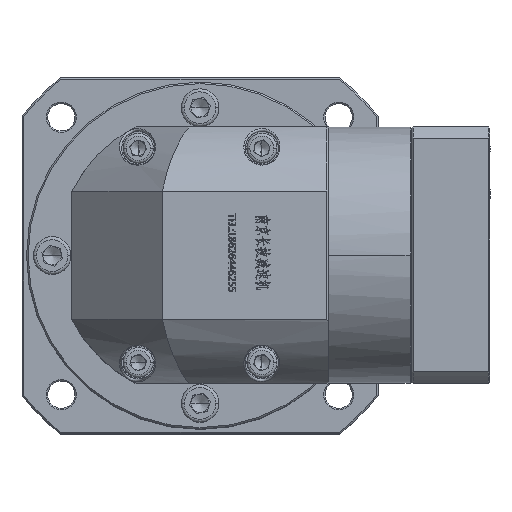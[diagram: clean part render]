
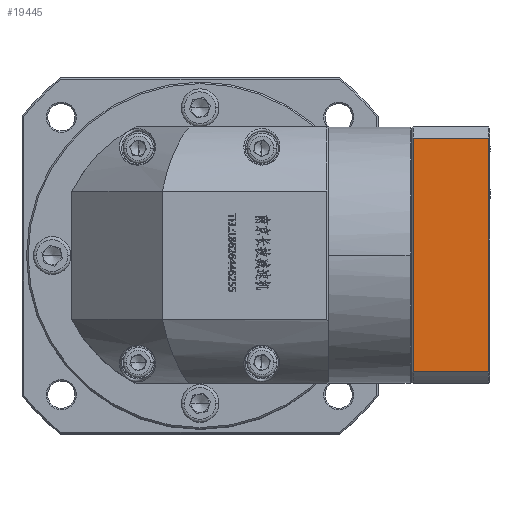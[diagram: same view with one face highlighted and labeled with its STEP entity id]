
A CAD part, top view. The second image highlights one B-rep face of the part: STEP entity #19445.
In plain terms, the highlighted planar face has unit normal (0, 0, 1).
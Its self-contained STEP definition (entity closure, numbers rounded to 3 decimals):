
#9739 = VERTEX_POINT ( 'NONE', #90985 ) ;
#14652 = ORIENTED_EDGE ( 'NONE', *, *, #107150, .F. ) ;
#17073 = CARTESIAN_POINT ( 'NONE',  ( 116.284, 87.155, 6.465 ) ) ;
#19094 = DIRECTION ( 'NONE',  ( -1., 0., 0. ) ) ;
#19445 = ADVANCED_FACE ( 'NONE', ( #86221 ), #45026, .F. ) ;
#25434 = LINE ( 'NONE', #17073, #40389 ) ;
#40389 = VECTOR ( 'NONE', #82932, 1000. ) ;
#40784 = ORIENTED_EDGE ( 'NONE', *, *, #163445, .T. ) ;
#41269 = ORIENTED_EDGE ( 'NONE', *, *, #139806, .F. ) ;
#45026 = PLANE ( 'NONE',  #167775 ) ;
#45551 = VECTOR ( 'NONE', #114621, 1000. ) ;
#65039 = VERTEX_POINT ( 'NONE', #114377 ) ;
#69198 = DIRECTION ( 'NONE',  ( 0., 0., -1. ) ) ;
#73991 = ORIENTED_EDGE ( 'NONE', *, *, #161682, .F. ) ;
#77740 = DIRECTION ( 'NONE',  ( 1., 0., 0. ) ) ;
#82932 = DIRECTION ( 'NONE',  ( 0., -1., 0. ) ) ;
#86221 = FACE_OUTER_BOUND ( 'NONE', #158956, .T. ) ;
#90985 = CARTESIAN_POINT ( 'NONE',  ( 91.284, 168.385, 6.465 ) ) ;
#91801 = VERTEX_POINT ( 'NONE', #117824 ) ;
#92413 = CARTESIAN_POINT ( 'NONE',  ( 91.284, 90.925, 6.465 ) ) ;
#99144 = LINE ( 'NONE', #131203, #154440 ) ;
#100956 = CARTESIAN_POINT ( 'NONE',  ( 91.284, 87.155, 6.465 ) ) ;
#107150 = EDGE_CURVE ( 'NONE', #65039, #124900, #107341, .T. ) ;
#107341 = LINE ( 'NONE', #128298, #139167 ) ;
#114377 = CARTESIAN_POINT ( 'NONE',  ( 116.284, 90.925, 6.465 ) ) ;
#114509 = CARTESIAN_POINT ( 'NONE',  ( 116.784, 87.155, 6.465 ) ) ;
#114621 = DIRECTION ( 'NONE',  ( 0., -1., 0. ) ) ;
#117824 = CARTESIAN_POINT ( 'NONE',  ( 116.284, 168.385, 6.465 ) ) ;
#118353 = DIRECTION ( 'NONE',  ( 0., 1., 0. ) ) ;
#124900 = VERTEX_POINT ( 'NONE', #92413 ) ;
#128298 = CARTESIAN_POINT ( 'NONE',  ( -73.477, 90.925, 6.465 ) ) ;
#131203 = CARTESIAN_POINT ( 'NONE',  ( 116.784, 168.385, 6.465 ) ) ;
#139167 = VECTOR ( 'NONE', #19094, 1000. ) ;
#139806 = EDGE_CURVE ( 'NONE', #9739, #91801, #99144, .T. ) ;
#154440 = VECTOR ( 'NONE', #77740, 1000. ) ;
#158202 = LINE ( 'NONE', #100956, #45551 ) ;
#158956 = EDGE_LOOP ( 'NONE', ( #40784, #14652, #73991, #41269 ) ) ;
#161682 = EDGE_CURVE ( 'NONE', #91801, #65039, #25434, .T. ) ;
#163445 = EDGE_CURVE ( 'NONE', #9739, #124900, #158202, .T. ) ;
#167775 = AXIS2_PLACEMENT_3D ( 'NONE', #114509, #69198, #118353 ) ;
